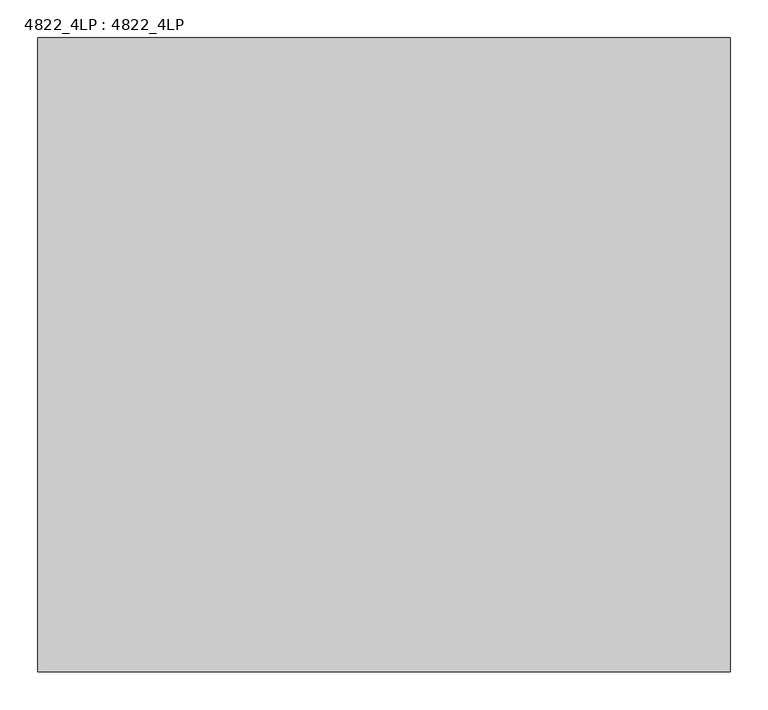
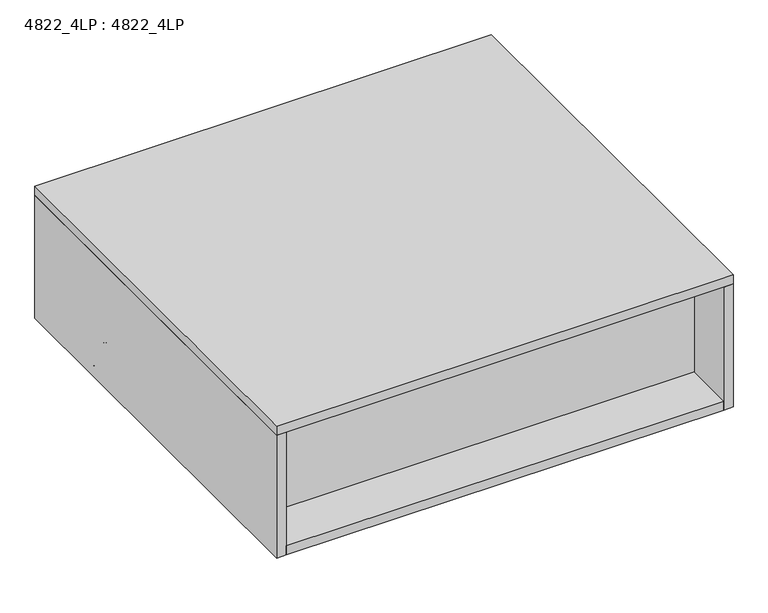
"""IFC4 building model written with IfcOpenShell, lengths in millimetres: furniture geometry, 4822_4LP : 4822_4LP."""

from ifc_helpers import new_model, si_unit, point, frame, frame_2d, origin, place, context, project, spatial, polyline, circle_curve, ellipse_curve, trimmed, segment, composite_curve, outline, extrude, source, transform, mapped, element, save
from ifc_brep_helpers import plane_surface, cylinder_surface, revolved_surface, advanced_brep


def furniture_4822_4lp_4822_4lp_91473fd6(model_context):
    return source(origin(), model_context, "Body", "SolidModel", [
        extrude(outline(composite_curve([segment(trimmed(circle_curve(frame_2d((320.675, -136.525)), 1.905), [point((320.675, -138.43))], [point((318.77, -136.525))], False, "CARTESIAN"), True, "CONTINUOUS"), segment(polyline([(318.77, -136.525), (318.77, -41.275)]), True, "CONTINUOUS"), segment(trimmed(circle_curve(frame_2d((320.675, -41.275)), 1.905), [point((318.77, -41.275))], [point((320.675, -39.37))], False, "CARTESIAN"), True, "CONTINUOUS"), segment(polyline([(320.675, -39.37), (415.925, -39.37)]), True, "CONTINUOUS"), segment(trimmed(circle_curve(frame_2d((415.925, -41.275)), 1.905), [point((415.925, -39.37))], [point((417.83, -41.275))], False, "CARTESIAN"), True, "CONTINUOUS"), segment(polyline([(417.83, -41.275), (417.83, -136.525)]), True, "CONTINUOUS"), segment(trimmed(circle_curve(frame_2d((415.925, -136.525)), 1.905), [point((417.83, -136.525))], [point((415.925, -138.43))], False, "CARTESIAN"), True, "CONTINUOUS"), segment(polyline([(415.925, -138.43), (320.675, -138.43)]), True, "CONTINUOUS")], self_intersect=False)), frame((0.0, 0.0, 9.8425), z_axis=(0.0, 0.0, 1.0), x_axis=(1.0, 0.0, 0.0)), (0.0, 0.0, 1.0), 1.27),
        advanced_brep(
        [(358.1478666, -88.9, 0.0), (378.4521334, -88.9, 0.0), (368.3, -88.9, 0.0), (357.8225, -88.9, 5.08), (378.7775, -88.9, 5.08), (357.8225, -88.9, 9.0481974), (378.7775, -88.9, 9.0481974), (358.6168026, -88.9, 9.8425), (377.9831974, -88.9, 9.8425), (368.3, -88.9, 9.8425)],
        [
            (0, 1, circle_curve(frame((368.3, -88.9, 0.0), z_axis=(0.0, 0.0, -1.0), x_axis=(1.0, 0.0, 0.0)), 10.1521334)),
            (1, 2),
            (2, 0),
            (1, 0, circle_curve(frame((368.3, -88.9, 0.0), z_axis=(0.0, 0.0, -1.0), x_axis=(1.0, 0.0, 0.0)), 10.1521334)),
            (3, 4, circle_curve(frame((368.3, -88.9, 5.08), z_axis=(0.0, 0.0, -1.0), x_axis=(1.0, 0.0, 0.0)), 10.4775)),
            (4, 1, circle_curve(frame((378.4521334, -88.9, 2.5504196), z_axis=(0.0, 1.0, 0.0), x_axis=(1.0, 0.0, 0.0)), 2.5504196)),
            (0, 3, circle_curve(frame((358.1478666, -88.9, 2.5504196), z_axis=(0.0, 1.0, 0.0), x_axis=(-1.0, 0.0, 0.0)), 2.5504196)),
            (4, 3, circle_curve(frame((368.3, -88.9, 5.08), z_axis=(0.0, 0.0, -1.0), x_axis=(1.0, 0.0, 0.0)), 10.4775)),
            (5, 6, circle_curve(frame((368.3, -88.9, 9.0481974), z_axis=(0.0, 0.0, -1.0), x_axis=(1.0, 0.0, 0.0)), 10.4775)),
            (6, 4),
            (3, 5),
            (6, 5, circle_curve(frame((368.3, -88.9, 9.0481974), z_axis=(0.0, 0.0, -1.0), x_axis=(1.0, 0.0, 0.0)), 10.4775)),
            (7, 8, circle_curve(frame((368.3, -88.9, 9.8425), z_axis=(0.0, 0.0, -1.0), x_axis=(1.0, 0.0, 0.0)), 9.6831974)),
            (8, 6, circle_curve(frame((377.9831974, -88.9, 9.0481974), z_axis=(0.0, 1.0, 0.0), x_axis=(1.0, 0.0, 0.0)), 0.7943026)),
            (5, 7, circle_curve(frame((358.6168026, -88.9, 9.0481974), z_axis=(0.0, 1.0, 0.0), x_axis=(-1.0, 0.0, 0.0)), 0.7943026)),
            (8, 7, circle_curve(frame((368.3, -88.9, 9.8425), z_axis=(0.0, 0.0, -1.0), x_axis=(1.0, 0.0, 0.0)), 9.6831974)),
            (9, 8),
            (7, 9),
        ],
        [
            plane_surface(frame((368.3, -88.9, 0.0), z_axis=(0.0, 0.0, -1.0), x_axis=(1.0, 0.0, 0.0))),
            revolved_surface(trimmed(ellipse_curve(frame((378.4521334, -88.9, 2.5504196), z_axis=(0.0, -1.0, 0.0), x_axis=(1.0, 0.0, 0.0)), 2.5504196, 2.5504196), [point((378.4521334, -88.9, 0.0))], [point((378.7775, -88.9, 5.08))], True, "CARTESIAN"), (368.3, -88.9, 9.8425), (0.0, 0.0, 1.0)),
            cylinder_surface(frame((368.3, -88.9, 9.8425), z_axis=(0.0, 0.0, 1.0), x_axis=(1.0, 0.0, 0.0)), 10.4775),
            revolved_surface(trimmed(ellipse_curve(frame((377.9831974, -88.9, 9.0481974), z_axis=(0.0, -1.0, 0.0), x_axis=(1.0, 0.0, 0.0)), 0.7943026, 0.7943026), [point((378.7775, -88.9, 9.0481974))], [point((377.9831974, -88.9, 9.8425))], True, "CARTESIAN"), (368.3, -88.9, 9.8425), (0.0, 0.0, 1.0)),
            plane_surface(frame((368.3, -88.9, 9.8425), z_axis=(0.0, 0.0, 1.0), x_axis=(1.0, 0.0, 0.0))),
        ],
        [
            (0, [[1, 2, 3]]),
            (0, [[4, -3, -2]]),
            (1, [[5, 6, -1, 7]]),
            (1, [[8, -7, -4, -6]]),
            (2, [[9, 10, -5, 11]]),
            (2, [[12, -11, -8, -10]]),
            (3, [[13, 14, -9, 15]]),
            (3, [[16, -15, -12, -14]]),
            (4, [[17, -13, 18]]),
            (4, [[-18, -16, -17]]),
        ],
    ),
        advanced_brep(
        [(-320.675, -38.1, 41.5925), (-415.925, -38.1, 41.5925), (-419.1, -41.275, 41.5925), (-419.1, -136.525, 41.5925), (-415.925, -139.7, 41.5925), (-320.675, -139.7, 41.5925), (-317.5, -136.525, 41.5925), (-317.5, -41.275, 41.5925), (-417.83, -41.275, 11.1125), (-415.925, -39.37, 11.1125), (-320.675, -39.37, 11.1125), (-318.77, -41.275, 11.1125), (-318.77, -136.525, 11.1125), (-320.675, -138.43, 11.1125), (-415.925, -138.43, 11.1125), (-417.83, -136.525, 11.1125), (-320.675, -38.1, 11.1125), (-415.925, -38.1, 11.1125), (-419.1, -41.275, 11.1125), (-419.1, -136.525, 11.1125), (-415.925, -139.7, 11.1125), (-320.675, -139.7, 11.1125), (-317.5, -136.525, 11.1125), (-317.5, -41.275, 11.1125), (-415.925, -39.37, 9.8425), (-417.83, -41.275, 9.8425), (-320.675, -39.37, 9.8425), (-318.77, -41.275, 9.8425), (-318.77, -136.525, 9.8425), (-320.675, -138.43, 9.8425), (-415.925, -138.43, 9.8425), (-417.83, -136.525, 9.8425)],
        [
            (0, 1),
            (1, 2, circle_curve(frame((-415.925, -41.275, 41.5925), z_axis=(0.0, 0.0, 1.0), x_axis=(1.0, 0.0, 0.0)), 3.175)),
            (2, 3),
            (3, 4, circle_curve(frame((-415.925, -136.525, 41.5925), z_axis=(0.0, 0.0, 1.0), x_axis=(1.0, 0.0, 0.0)), 3.175)),
            (4, 5),
            (5, 6, circle_curve(frame((-320.675, -136.525, 41.5925), z_axis=(0.0, 0.0, 1.0), x_axis=(1.0, 0.0, 0.0)), 3.175)),
            (6, 7),
            (7, 0, circle_curve(frame((-320.675, -41.275, 41.5925), z_axis=(0.0, 0.0, 1.0), x_axis=(1.0, 0.0, 0.0)), 3.175)),
            (8, 9, circle_curve(frame((-415.925, -41.275, 11.1125), z_axis=(0.0, 0.0, -1.0), x_axis=(-1.0, 0.0, 0.0)), 1.905)),
            (9, 10),
            (10, 11, circle_curve(frame((-320.675, -41.275, 11.1125), z_axis=(0.0, 0.0, -1.0), x_axis=(0.0, 1.0, 0.0)), 1.905)),
            (11, 12),
            (12, 13, circle_curve(frame((-320.675, -136.525, 11.1125), z_axis=(0.0, 0.0, -1.0), x_axis=(1.0, 0.0, 0.0)), 1.905)),
            (13, 14),
            (14, 15, circle_curve(frame((-415.925, -136.525, 11.1125), z_axis=(0.0, 0.0, -1.0), x_axis=(0.0, -1.0, 0.0)), 1.905)),
            (15, 8),
            (0, 16),
            (16, 17),
            (17, 1),
            (17, 18, circle_curve(frame((-415.925, -41.275, 11.1125), z_axis=(0.0, 0.0, 1.0), x_axis=(1.0, 0.0, 0.0)), 3.175)),
            (18, 2),
            (18, 19),
            (19, 3),
            (19, 20, circle_curve(frame((-415.925, -136.525, 11.1125), z_axis=(0.0, 0.0, 1.0), x_axis=(1.0, 0.0, 0.0)), 3.175)),
            (20, 4),
            (20, 21),
            (21, 5),
            (21, 22, circle_curve(frame((-320.675, -136.525, 11.1125), z_axis=(0.0, 0.0, 1.0), x_axis=(1.0, 0.0, 0.0)), 3.175)),
            (22, 6),
            (22, 23),
            (23, 7),
            (23, 16, circle_curve(frame((-320.675, -41.275, 11.1125), z_axis=(0.0, 0.0, 1.0), x_axis=(1.0, 0.0, 0.0)), 3.175)),
            (24, 25, circle_curve(frame((-415.925, -41.275, 9.8425), z_axis=(0.0, 0.0, 1.0), x_axis=(-1.0, 0.0, 0.0)), 1.905)),
            (25, 18, circle_curve(frame((-417.83, -41.275, 11.1125), z_axis=(0.0, 1.0, 0.0), x_axis=(1.0, 0.0, 0.0)), 1.27)),
            (17, 24, circle_curve(frame((-415.925, -39.37, 11.1125), z_axis=(-1.0, 0.0, 0.0), x_axis=(0.0, -1.0, 0.0)), 1.27)),
            (16, 26, circle_curve(frame((-320.675, -39.37, 11.1125), z_axis=(-1.0, 0.0, 0.0), x_axis=(0.0, -1.0, 0.0)), 1.27)),
            (26, 24),
            (23, 27, circle_curve(frame((-318.77, -41.275, 11.1125), z_axis=(0.0, 1.0, 0.0), x_axis=(-1.0, 0.0, 0.0)), 1.27)),
            (27, 26, circle_curve(frame((-320.675, -41.275, 9.8425), z_axis=(0.0, 0.0, 1.0), x_axis=(0.0, 1.0, 0.0)), 1.905)),
            (22, 28, circle_curve(frame((-318.77, -136.525, 11.1125), z_axis=(0.0, 1.0, 0.0), x_axis=(-1.0, 0.0, 0.0)), 1.27)),
            (28, 27),
            (21, 29, circle_curve(frame((-320.675, -138.43, 11.1125), z_axis=(1.0, 0.0, 0.0), x_axis=(0.0, 1.0, 0.0)), 1.27)),
            (29, 28, circle_curve(frame((-320.675, -136.525, 9.8425), z_axis=(0.0, 0.0, 1.0), x_axis=(1.0, 0.0, 0.0)), 1.905)),
            (20, 30, circle_curve(frame((-415.925, -138.43, 11.1125), z_axis=(1.0, 0.0, 0.0), x_axis=(0.0, 1.0, 0.0)), 1.27)),
            (30, 29),
            (19, 31, circle_curve(frame((-417.83, -136.525, 11.1125), z_axis=(0.0, -1.0, 0.0), x_axis=(1.0, 0.0, 0.0)), 1.27)),
            (31, 30, circle_curve(frame((-415.925, -136.525, 9.8425), z_axis=(0.0, 0.0, 1.0), x_axis=(0.0, -1.0, 0.0)), 1.905)),
            (25, 31),
            (24, 9),
            (8, 25),
            (26, 10),
            (27, 11),
            (28, 12),
            (29, 13),
            (30, 14),
            (31, 15),
        ],
        [
            plane_surface(frame((-415.925, -38.1, 41.5925), z_axis=(0.0, 0.0, 1.0), x_axis=(-1.0, 0.0, 0.0))),
            plane_surface(frame((-415.925, -38.1, 11.1125), z_axis=(0.0, 0.0, -1.0), x_axis=(1.0, 0.0, 0.0))),
            plane_surface(frame((-320.675, -38.1, 41.5925), z_axis=(0.0, 1.0, 0.0), x_axis=(0.0, 0.0, -1.0))),
            cylinder_surface(frame((-415.925, -41.275, 11.1125), z_axis=(0.0, 0.0, 1.0), x_axis=(1.0, 0.0, 0.0)), 3.175),
            plane_surface(frame((-419.1, -41.275, 41.5925), z_axis=(-1.0, 0.0, 0.0), x_axis=(0.0, 0.0, -1.0))),
            cylinder_surface(frame((-415.925, -136.525, 11.1125), z_axis=(0.0, 0.0, 1.0), x_axis=(1.0, 0.0, 0.0)), 3.175),
            plane_surface(frame((-415.925, -139.7, 41.5925), z_axis=(0.0, -1.0, 0.0), x_axis=(0.0, 0.0, -1.0))),
            cylinder_surface(frame((-320.675, -136.525, 11.1125), z_axis=(0.0, 0.0, 1.0), x_axis=(1.0, 0.0, 0.0)), 3.175),
            plane_surface(frame((-317.5, -136.525, 41.5925), z_axis=(1.0, 0.0, 0.0), x_axis=(0.0, 0.0, -1.0))),
            cylinder_surface(frame((-320.675, -41.275, 11.1125), z_axis=(0.0, 0.0, 1.0), x_axis=(1.0, 0.0, 0.0)), 3.175),
            revolved_surface(trimmed(ellipse_curve(frame((-417.83, -41.275, 11.1125), z_axis=(0.0, -1.0, 0.0), x_axis=(1.0, 0.0, 0.0)), 1.27, 1.27), [point((-419.1, -41.275, 11.1125))], [point((-417.83, -41.275, 9.8425))], True, "CARTESIAN"), (-415.925, -41.275, 11.1125), (0.0, 0.0, -1.0)),
            cylinder_surface(frame((-415.925, -39.37, 11.1125), z_axis=(-1.0, 0.0, 0.0), x_axis=(0.0, -1.0, 0.0)), 1.27),
            revolved_surface(trimmed(ellipse_curve(frame((-320.675, -39.37, 11.1125), z_axis=(-1.0, 0.0, 0.0), x_axis=(0.0, -1.0, 0.0)), 1.27, 1.27), [point((-320.675, -38.1, 11.1125))], [point((-320.675, -39.37, 9.8425))], True, "CARTESIAN"), (-320.675, -41.275, 11.1125), (0.0, 0.0, -1.0)),
            cylinder_surface(frame((-318.77, -41.275, 11.1125), z_axis=(0.0, 1.0, 0.0), x_axis=(-1.0, 0.0, 0.0)), 1.27),
            revolved_surface(trimmed(ellipse_curve(frame((-318.77, -136.525, 11.1125), z_axis=(0.0, 1.0, 0.0), x_axis=(-1.0, 0.0, 0.0)), 1.27, 1.27), [point((-317.5, -136.525, 11.1125))], [point((-318.77, -136.525, 9.8425))], True, "CARTESIAN"), (-320.675, -136.525, 11.1125), (0.0, 0.0, -1.0)),
            cylinder_surface(frame((-320.675, -138.43, 11.1125), z_axis=(1.0, 0.0, 0.0), x_axis=(0.0, 1.0, 0.0)), 1.27),
            revolved_surface(trimmed(ellipse_curve(frame((-415.925, -138.43, 11.1125), z_axis=(1.0, 0.0, 0.0), x_axis=(0.0, 1.0, 0.0)), 1.27, 1.27), [point((-415.925, -139.7, 11.1125))], [point((-415.925, -138.43, 9.8425))], True, "CARTESIAN"), (-415.925, -136.525, 11.1125), (0.0, 0.0, -1.0)),
            cylinder_surface(frame((-417.83, -136.525, 11.1125), z_axis=(0.0, -1.0, 0.0), x_axis=(1.0, 0.0, 0.0)), 1.27),
            revolved_surface(polyline([(-417.83, -41.275, 9.8425), (-417.83, -41.275, 11.1125)]), (-415.925, -41.275, 11.1125), (0.0, 0.0, -1.0)),
            plane_surface(frame((-415.925, -39.37, 9.8425), z_axis=(0.0, -1.0, 0.0), x_axis=(1.0, 0.0, 0.0))),
            revolved_surface(polyline([(-320.675, -39.37, 9.8425), (-320.675, -39.37, 11.1125)]), (-320.675, -41.275, 11.1125), (0.0, 0.0, -1.0)),
            plane_surface(frame((-318.77, -41.275, 9.8425), z_axis=(-1.0, 0.0, 0.0), x_axis=(0.0, -1.0, 0.0))),
            revolved_surface(polyline([(-318.77000000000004, -136.525, 9.8425), (-318.77000000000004, -136.525, 11.1125)]), (-320.675, -136.525, 11.1125), (0.0, 0.0, -1.0)),
            plane_surface(frame((-320.675, -138.43, 9.8425), z_axis=(0.0, 1.0, 0.0), x_axis=(-1.0, 0.0, 0.0))),
            revolved_surface(polyline([(-415.925, -138.43, 9.8425), (-415.925, -138.43, 11.1125)]), (-415.925, -136.525, 11.1125), (0.0, 0.0, -1.0)),
            plane_surface(frame((-417.83, -136.525, 9.8425), z_axis=(1.0, 0.0, 0.0), x_axis=(0.0, 1.0, 0.0))),
        ],
        [
            (0, [[1, 2, 3, 4, 5, 6, 7, 8]]),
            (1, [[9, 10, 11, 12, 13, 14, 15, 16]]),
            (2, [[-1, 17, 18, 19]]),
            (3, [[-2, -19, 20, 21]]),
            (4, [[-3, -21, 22, 23]]),
            (5, [[-4, -23, 24, 25]]),
            (6, [[-5, -25, 26, 27]]),
            (7, [[-6, -27, 28, 29]]),
            (8, [[-7, -29, 30, 31]]),
            (9, [[-8, -31, 32, -17]]),
            (10, [[33, 34, -20, 35]]),
            (11, [[-35, -18, 36, 37]]),
            (12, [[-36, -32, 38, 39]]),
            (13, [[-38, -30, 40, 41]]),
            (14, [[-40, -28, 42, 43]]),
            (15, [[-42, -26, 44, 45]]),
            (16, [[-44, -24, 46, 47]]),
            (17, [[-34, 48, -46, -22]]),
            (18, [[-33, 49, -9, 50]]),
            (19, [[-37, 51, -10, -49]]),
            (20, [[-39, 52, -11, -51]]),
            (21, [[-41, 53, -12, -52]]),
            (22, [[-43, 54, -13, -53]]),
            (23, [[-45, 55, -14, -54]]),
            (24, [[-47, 56, -15, -55]]),
            (25, [[-48, -50, -16, -56]]),
        ],
    ),
        extrude(outline(composite_curve([segment(trimmed(circle_curve(frame_2d((-415.925, -136.525)), 1.905), [point((-415.925, -138.43))], [point((-417.83, -136.525))], False, "CARTESIAN"), True, "CONTINUOUS"), segment(polyline([(-417.83, -136.525), (-417.83, -41.275)]), True, "CONTINUOUS"), segment(trimmed(circle_curve(frame_2d((-415.925, -41.275)), 1.905), [point((-417.83, -41.275))], [point((-415.925, -39.37))], False, "CARTESIAN"), True, "CONTINUOUS"), segment(polyline([(-415.925, -39.37), (-320.675, -39.37)]), True, "CONTINUOUS"), segment(trimmed(circle_curve(frame_2d((-320.675, -41.275)), 1.905), [point((-320.675, -39.37))], [point((-318.77, -41.275))], False, "CARTESIAN"), True, "CONTINUOUS"), segment(polyline([(-318.77, -41.275), (-318.77, -136.525)]), True, "CONTINUOUS"), segment(trimmed(circle_curve(frame_2d((-320.675, -136.525)), 1.905), [point((-318.77, -136.525))], [point((-320.675, -138.43))], False, "CARTESIAN"), True, "CONTINUOUS"), segment(polyline([(-320.675, -138.43), (-415.925, -138.43)]), True, "CONTINUOUS")], self_intersect=False)), frame((0.0, 0.0, 9.8425), z_axis=(0.0, 0.0, 1.0), x_axis=(1.0, 0.0, 0.0)), (0.0, 0.0, 1.0), 1.27),
        advanced_brep(
        [(-378.4521334, -88.9, 0.0), (-358.1478666, -88.9, 0.0), (-368.3, -88.9, 0.0), (-378.7775, -88.9, 5.08), (-357.8225, -88.9, 5.08), (-378.7775, -88.9, 9.0481974), (-357.8225, -88.9, 9.0481974), (-377.9831974, -88.9, 9.8425), (-358.6168026, -88.9, 9.8425), (-368.3, -88.9, 9.8425)],
        [
            (0, 1, circle_curve(frame((-368.3, -88.9, 0.0), z_axis=(0.0, 0.0, -1.0), x_axis=(1.0, 0.0, 0.0)), 10.1521334)),
            (1, 2),
            (2, 0),
            (1, 0, circle_curve(frame((-368.3, -88.9, 0.0), z_axis=(0.0, 0.0, -1.0), x_axis=(1.0, 0.0, 0.0)), 10.1521334)),
            (3, 4, circle_curve(frame((-368.3, -88.9, 5.08), z_axis=(0.0, 0.0, -1.0), x_axis=(1.0, 0.0, 0.0)), 10.4775)),
            (4, 1, circle_curve(frame((-358.1478666, -88.9, 2.5504196), z_axis=(0.0, 1.0, 0.0), x_axis=(1.0, 0.0, 0.0)), 2.5504196)),
            (0, 3, circle_curve(frame((-378.4521334, -88.9, 2.5504196), z_axis=(0.0, 1.0, 0.0), x_axis=(-1.0, 0.0, 0.0)), 2.5504196)),
            (4, 3, circle_curve(frame((-368.3, -88.9, 5.08), z_axis=(0.0, 0.0, -1.0), x_axis=(1.0, 0.0, 0.0)), 10.4775)),
            (5, 6, circle_curve(frame((-368.3, -88.9, 9.0481974), z_axis=(0.0, 0.0, -1.0), x_axis=(1.0, 0.0, 0.0)), 10.4775)),
            (6, 4),
            (3, 5),
            (6, 5, circle_curve(frame((-368.3, -88.9, 9.0481974), z_axis=(0.0, 0.0, -1.0), x_axis=(1.0, 0.0, 0.0)), 10.4775)),
            (7, 8, circle_curve(frame((-368.3, -88.9, 9.8425), z_axis=(0.0, 0.0, -1.0), x_axis=(1.0, 0.0, 0.0)), 9.6831974)),
            (8, 6, circle_curve(frame((-358.6168026, -88.9, 9.0481974), z_axis=(0.0, 1.0, 0.0), x_axis=(1.0, 0.0, 0.0)), 0.7943026)),
            (5, 7, circle_curve(frame((-377.9831974, -88.9, 9.0481974), z_axis=(0.0, 1.0, 0.0), x_axis=(-1.0, 0.0, 0.0)), 0.7943026)),
            (8, 7, circle_curve(frame((-368.3, -88.9, 9.8425), z_axis=(0.0, 0.0, -1.0), x_axis=(1.0, 0.0, 0.0)), 9.6831974)),
            (9, 8),
            (7, 9),
        ],
        [
            plane_surface(frame((-368.3, -88.9, 0.0), z_axis=(0.0, 0.0, -1.0), x_axis=(1.0, 0.0, 0.0))),
            revolved_surface(trimmed(ellipse_curve(frame((-358.1478666, -88.9, 2.5504196), z_axis=(0.0, -1.0, 0.0), x_axis=(1.0, 0.0, 0.0)), 2.5504196, 2.5504196), [point((-358.1478666, -88.9, 0.0))], [point((-357.8225, -88.9, 5.08))], True, "CARTESIAN"), (-368.3, -88.9, 9.8425), (0.0, 0.0, 1.0)),
            cylinder_surface(frame((-368.3, -88.9, 9.8425), z_axis=(0.0, 0.0, 1.0), x_axis=(1.0, 0.0, 0.0)), 10.4775),
            revolved_surface(trimmed(ellipse_curve(frame((-358.6168026, -88.9, 9.0481974), z_axis=(0.0, -1.0, 0.0), x_axis=(1.0, 0.0, 0.0)), 0.7943026, 0.7943026), [point((-357.8225, -88.9, 9.0481974))], [point((-358.6168026, -88.9, 9.8425))], True, "CARTESIAN"), (-368.3, -88.9, 9.8425), (0.0, 0.0, 1.0)),
            plane_surface(frame((-368.3, -88.9, 9.8425), z_axis=(0.0, 0.0, 1.0), x_axis=(1.0, 0.0, 0.0))),
        ],
        [
            (0, [[1, 2, 3]]),
            (0, [[4, -3, -2]]),
            (1, [[5, 6, -1, 7]]),
            (1, [[8, -7, -4, -6]]),
            (2, [[9, 10, -5, 11]]),
            (2, [[12, -11, -8, -10]]),
            (3, [[13, 14, -9, 15]]),
            (3, [[16, -15, -12, -14]]),
            (4, [[17, -13, 18]]),
            (4, [[-18, -16, -17]]),
        ],
    ),
        extrude(outline(polyline([(438.15, -101.6), (438.15, -736.6), (-438.15, -736.6), (-438.15, -101.6), (438.15, -101.6)])), frame((0.0, 0.0, 60.6425), z_axis=(0.0, 0.0, 1.0), x_axis=(1.0, 0.0, 0.0)), (0.0, 0.0, 1.0), 241.3),
        extrude(outline(polyline([(457.2, 0.0), (457.2, -838.2), (-457.2, -838.2), (-457.2, 0.0), (457.2, 0.0)])), frame((0.0, 0.0, 301.9425), z_axis=(0.0, 0.0, 1.0), x_axis=(1.0, 0.0, 0.0)), (0.0, 0.0, 1.0), 19.05),
        extrude(outline(polyline([(457.2, 0.0), (457.2, -838.2), (438.15, -838.2), (438.15, 0.0), (457.2, 0.0)])), frame((0.0, 0.0, 41.5925), z_axis=(0.0, 0.0, 1.0), x_axis=(1.0, 0.0, 0.0)), (0.0, 0.0, 1.0), 260.35),
        extrude(outline(polyline([(-457.2, 0.0), (-438.15, 0.0), (-438.15, -838.2), (-457.2, -838.2), (-457.2, 0.0)])), frame((0.0, 0.0, 41.5925), z_axis=(0.0, 0.0, 1.0), x_axis=(1.0, 0.0, 0.0)), (0.0, 0.0, 1.0), 260.35),
        extrude(outline(polyline([(438.15, 0.0), (438.15, -838.2), (-438.15, -838.2), (-438.15, 0.0), (438.15, 0.0)])), frame((0.0, 0.0, 41.5925), z_axis=(0.0, 0.0, 1.0), x_axis=(1.0, 0.0, 0.0)), (0.0, 0.0, 1.0), 19.05),
    ])


if __name__ == "__main__":
    model = new_model("IFC4")
    model_context = context("Model", 3, world=origin())
    ifc_project = project(units=[si_unit("LENGTHUNIT", "METRE", prefix="MILLI")], contexts=[model_context])
    site = spatial("IfcSite", under=ifc_project)
    building = spatial("IfcBuilding", under=site)
    placement = place(None, origin())
    furniture_4822_4lp_4822_4lp_shape = furniture_4822_4lp_4822_4lp_91473fd6(model_context)
    element("IfcFurniture", 1, ObjectType="4822_4LP : 4822_4LP", at=placement, inside=building, context=model_context, shape_type="MappedRepresentation", body=[
        mapped(furniture_4822_4lp_4822_4lp_shape, transform((0.0, 0.0, 0.0), x_axis=(1.0, 0.0, 0.0), y_axis=(0.0, 1.0, 0.0), z_axis=(0.0, 0.0, 1.0))),
    ])
    save(model, "model.ifc")
